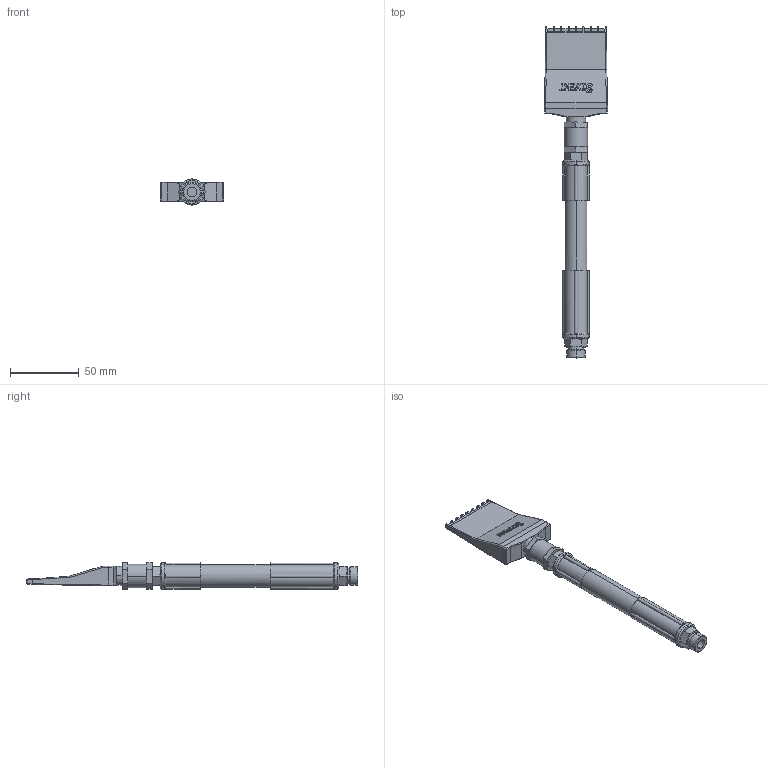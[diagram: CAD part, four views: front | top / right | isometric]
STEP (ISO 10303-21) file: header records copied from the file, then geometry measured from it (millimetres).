
FILE_DESCRIPTION (( 'STEP AP214' ), '1' );
FILE_NAME ('Silvent 220F.STEP', '2008-10-08T10:23:24', ( ' ' ), ( '' ), 'SwSTEP 2.0', 'SolidWorks 2005278', '' );
FILE_SCHEMA (( 'AUTOMOTIVE_DESIGN' ));
Length unit declared in the file: millimetre
Products named in the file (4): Silvent 920; Silvent 820; A3 14; Silvent 220F
Assembly tree (3 placements, depth 2):
  Silvent 220F
    Silvent 920
    A3 14
    Silvent 820
Bounding box: 46 x 242 x 19.61 mm (x, y, z)
Volume: 55883.9 mm3; surface area: 23436.1 mm2
Topology: 3 solids, 3 shells, 498 faces, 1272 edges, 776 vertices
Faces by surface type: plane 238, cylinder 164, bspline 42, cone 36, torus 16, sphere 2
Entity records: 32017 total; most frequent: CARTESIAN_POINT 18448, ORIENTED_EDGE 2508, DIRECTION 2452, EDGE_CURVE 1254, AXIS2_PLACEMENT_3D 914, VERTEX_POINT 776, VECTOR 624, LINE 624
